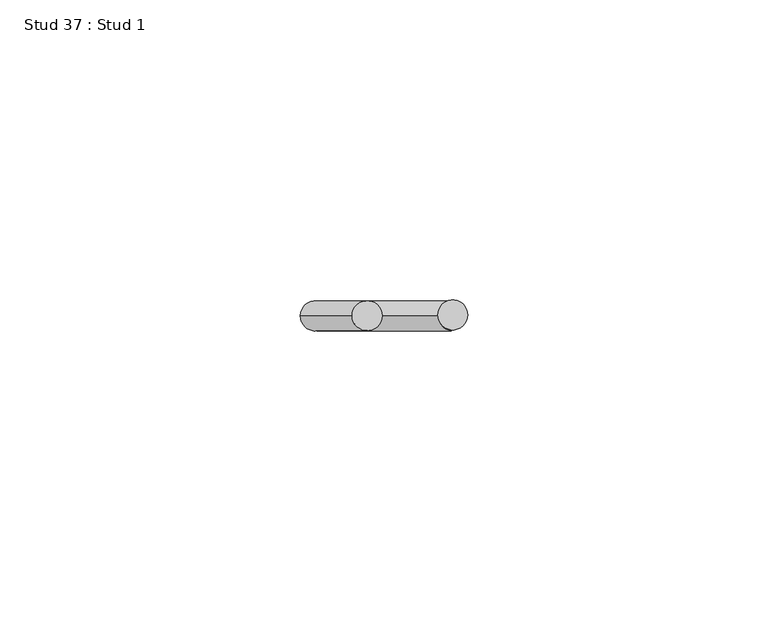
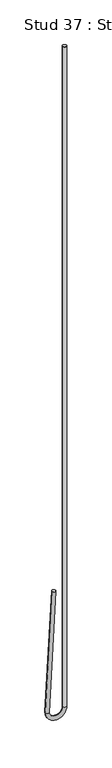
"""IFC4 building model written with IfcOpenShell, lengths in millimetres: proxy geometry, Stud 37 : Stud 1."""

from ifc_helpers import new_model, si_unit, point, frame, origin, place, context, project, spatial, circle_curve, ellipse_curve, trimmed, source, transform, mapped, element, save
from ifc_brep_helpers import plane_surface, cylinder_surface, revolved_surface, advanced_brep


def stud_37_stud_1_0b9a7b89(model_context):
    return source(origin(), model_context, "Body", "AdvancedBrep", [
        advanced_brep(
        [(-14671.4532788, 8353.5191481, 3640.800192), (-14666.4601311, 8353.5191481, 3640.5385122), (-14680.0939451, 8353.5191481, 3475.9264558), (-14675.1007975, 8353.5191481, 3475.664776), (-14657.1920812, 8353.5191481, 3475.7956159), (-14652.1920812, 8353.5191481, 3475.7956159), (-14652.1920812, 8353.5191481, 4390.1956159), (-14657.1920812, 8353.5191481, 4390.1956159)],
        [
            (0, 1, circle_curve(frame((-14668.9567049, 8353.5191481, 3640.6693521), z_axis=(0.05233595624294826, 0.0, 0.9986295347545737), x_axis=(0.9986295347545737, 0.0, -0.05233595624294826)), 2.5)),
            (1, 0, circle_curve(frame((-14668.9567049, 8353.5191481, 3640.6693521), z_axis=(0.05233595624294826, 0.0, 0.9986295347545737), x_axis=(0.9986295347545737, 0.0, -0.05233595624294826)), 2.5)),
            (0, 2),
            (2, 3, circle_curve(frame((-14677.5973713, 8353.5191481, 3475.7956159), z_axis=(0.05233595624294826, 0.0, 0.9986295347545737), x_axis=(0.9986295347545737, 0.0, -0.05233595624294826)), 2.5)),
            (3, 1),
            (3, 2, circle_curve(frame((-14677.5973713, 8353.5191481, 3475.7956159), z_axis=(0.05233595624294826, 0.0, 0.9986295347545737), x_axis=(0.9986295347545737, 0.0, -0.05233595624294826)), 2.5)),
            (4, 3, circle_curve(frame((-14666.1447263, 8353.5191481, 3475.7956159), z_axis=(0.0, 1.0, 0.0), x_axis=(-1.0, 0.0, 0.0)), 8.952645)),
            (2, 5, circle_curve(frame((-14666.1447263, 8353.5191481, 3475.7956159), z_axis=(0.0, -1.0, 0.0), x_axis=(-1.0, 0.0, 0.0)), 13.952645)),
            (5, 4, circle_curve(frame((-14654.6920812, 8353.5191481, 3475.7956159), z_axis=(0.0, 0.0, -1.0), x_axis=(-1.0, 0.0, 0.0)), 2.5)),
            (4, 5, circle_curve(frame((-14654.6920812, 8353.5191481, 3475.7956159), z_axis=(0.0, 0.0, -1.0), x_axis=(-1.0, 0.0, 0.0)), 2.5)),
            (6, 7, circle_curve(frame((-14654.6920812, 8353.5191481, 4390.1956159), z_axis=(0.0, 0.0, 1.0), x_axis=(-1.0, 0.0, 0.0)), 2.5)),
            (7, 6, circle_curve(frame((-14654.6920812, 8353.5191481, 4390.1956159), z_axis=(0.0, 0.0, 1.0), x_axis=(-1.0, 0.0, 0.0)), 2.5)),
            (5, 6),
            (7, 4),
        ],
        [
            plane_surface(frame((-14668.9567049, 8947.2441481, 3640.6693521), z_axis=(0.05233595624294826, 0.0, 0.9986295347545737), x_axis=(0.0, -1.0, 0.0))),
            cylinder_surface(frame((-14668.9567049, 8353.5191481, 3640.6693521), z_axis=(0.05233595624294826, 0.0, 0.9986295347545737), x_axis=(0.9986295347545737, 0.0, -0.05233595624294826)), 2.5),
            revolved_surface(trimmed(ellipse_curve(frame((-14677.5973713, 8353.5191481, 3475.7956159), z_axis=(0.0, 0.0, 1.0), x_axis=(1.0, 0.0, 0.0)), 2.5, 2.5), [point((-14680.0973713, 8353.5191481, 3475.7956159))], [point((-14675.0973713, 8353.5191481, 3475.7956159))], True, "CARTESIAN"), (-14666.1447263, 8947.2441481, 3475.7956159), (0.0, -1.0, 0.0)),
            revolved_surface(trimmed(ellipse_curve(frame((-14677.5973713, 8353.5191481, 3475.7956159), z_axis=(0.0, 0.0, 1.0), x_axis=(1.0, 0.0, 0.0)), 2.5, 2.5), [point((-14675.0973713, 8353.5191481, 3475.7956159))], [point((-14680.0973713, 8353.5191481, 3475.7956159))], True, "CARTESIAN"), (-14666.1447263, 8947.2441481, 3475.7956159), (0.0, -1.0, 0.0)),
            plane_surface(frame((-14654.6920812, 8947.2441481, 4390.1956159), z_axis=(0.0, 0.0, 1.0), x_axis=(0.0, -1.0, 0.0))),
            cylinder_surface(frame((-14654.6920812, 8353.5191481, 3475.7956159), z_axis=(0.0, 0.0, -1.0), x_axis=(-1.0, 0.0, 0.0)), 2.5),
        ],
        [
            (0, [[1, 2]]),
            (1, [[-1, 3, 4, 5]]),
            (1, [[-2, -5, 6, -3]]),
            (2, [[7, -4, 8, 9]]),
            (3, [[-8, -6, -7, 10]]),
            (4, [[11, 12]]),
            (5, [[-9, 13, -12, 14]]),
            (5, [[-10, -14, -11, -13]]),
        ],
    ),
    ])


if __name__ == "__main__":
    model = new_model("IFC4")
    model_context = context("Model", 3, world=origin())
    ifc_project = project(units=[si_unit("LENGTHUNIT", "METRE", prefix="MILLI")], contexts=[model_context])
    site = spatial("IfcSite", under=ifc_project)
    building = spatial("IfcBuilding", under=site)
    placement = place(None, origin())
    stud_37_stud_1_shape = stud_37_stud_1_0b9a7b89(model_context)
    element("IfcBuildingElementProxy", 1, Name="Stud 37 : Stud 1", ObjectType="Stud 37 : Stud 1", at=placement, inside=building, context=model_context, shape_type="MappedRepresentation", body=[
        mapped(stud_37_stud_1_shape, transform((0.0, 0.0, 0.0), x_axis=(1.0, 0.0, 0.0), y_axis=(0.0, 1.0, 0.0), z_axis=(0.0, 0.0, 1.0))),
    ])
    save(model, "model.ifc")
